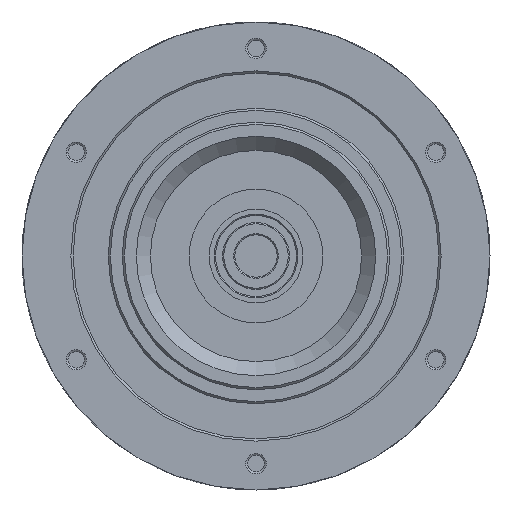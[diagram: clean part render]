
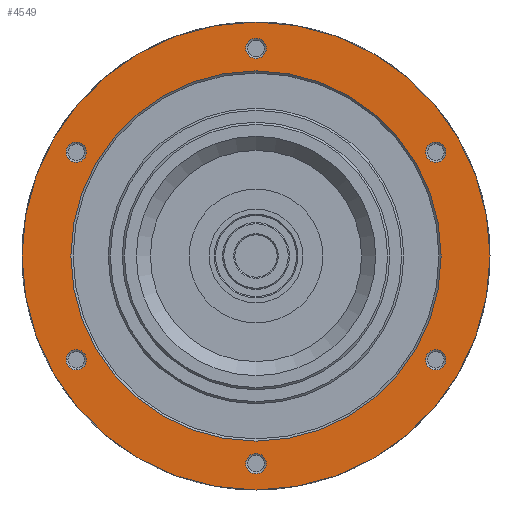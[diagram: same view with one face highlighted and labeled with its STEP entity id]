
A CAD part, left-side view. The second image highlights one B-rep face of the part: STEP entity #4549.
In plain terms, the highlighted planar face has unit normal (-1, 0, 0).
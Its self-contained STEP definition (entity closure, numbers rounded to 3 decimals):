
#4434=CARTESIAN_POINT('',(234.18,314.603,-169.442));
#4435=VERTEX_POINT('',#4434);
#4436=CARTESIAN_POINT('',(234.18,343.399,-186.067));
#4437=VERTEX_POINT('',#4436);
#4438=CARTESIAN_POINT('',(234.18,314.603,-202.692));
#4439=DIRECTION('',(1.,0.,0.));
#4440=DIRECTION('',(0.,0.,1.));
#4441=AXIS2_PLACEMENT_3D('',#4438,#4439,#4440);
#4442=CIRCLE('',#4441,33.25);
#4443=EDGE_CURVE('',#4435,#4437,#4442,.T.);
#4444=ORIENTED_EDGE('',*,*,#4443,.F.);
#4445=EDGE_CURVE('',#4437,#4435,#4442,.T.);
#4446=ORIENTED_EDGE('',*,*,#4445,.F.);
#4447=EDGE_LOOP('',(#4444,#4446));
#4448=FACE_OUTER_BOUND('',#4447,.T.);
#4449=CARTESIAN_POINT('',(234.18,313.156,-232.192));
#4450=VERTEX_POINT('',#4449);
#4451=CARTESIAN_POINT('',(234.18,314.603,-232.192));
#4452=DIRECTION('',(1.,0.,0.));
#4453=DIRECTION('',(0.,1.,0.));
#4454=AXIS2_PLACEMENT_3D('',#4451,#4452,#4453);
#4455=CIRCLE('',#4454,1.447);
#4456=EDGE_CURVE('',#4450,#4450,#4455,.T.);
#4457=ORIENTED_EDGE('',*,*,#4456,.T.);
#4458=EDGE_LOOP('',(#4457));
#4459=FACE_BOUND('',#4458,.T.);
#4460=CARTESIAN_POINT('',(234.18,339.428,-218.695));
#4461=VERTEX_POINT('',#4460);
#4462=CARTESIAN_POINT('',(234.18,340.151,-217.442));
#4463=DIRECTION('',(1.,0.,0.));
#4464=DIRECTION('',(0.,0.5,0.866));
#4465=AXIS2_PLACEMENT_3D('',#4462,#4463,#4464);
#4466=CIRCLE('',#4465,1.447);
#4467=EDGE_CURVE('',#4461,#4461,#4466,.T.);
#4468=ORIENTED_EDGE('',*,*,#4467,.T.);
#4469=EDGE_LOOP('',(#4468));
#4470=FACE_BOUND('',#4469,.T.);
#4471=CARTESIAN_POINT('',(234.18,340.874,-189.195));
#4472=VERTEX_POINT('',#4471);
#4473=CARTESIAN_POINT('',(234.18,339.428,-186.689));
#4474=VERTEX_POINT('',#4473);
#4475=CARTESIAN_POINT('',(234.18,340.151,-187.942));
#4476=DIRECTION('',(1.,0.,0.));
#4477=DIRECTION('',(0.,-0.5,0.866));
#4478=AXIS2_PLACEMENT_3D('',#4475,#4476,#4477);
#4479=CIRCLE('',#4478,1.447);
#4480=EDGE_CURVE('',#4472,#4474,#4479,.T.);
#4481=ORIENTED_EDGE('',*,*,#4480,.T.);
#4482=CARTESIAN_POINT('',(234.18,340.151,-187.942));
#4483=DIRECTION('',(1.,0.,0.));
#4484=DIRECTION('',(0.,-0.5,0.866));
#4485=AXIS2_PLACEMENT_3D('',#4482,#4483,#4484);
#4486=CIRCLE('',#4485,1.447);
#4487=EDGE_CURVE('',#4474,#4472,#4486,.T.);
#4488=ORIENTED_EDGE('',*,*,#4487,.T.);
#4489=EDGE_LOOP('',(#4481,#4488));
#4490=FACE_BOUND('',#4489,.T.);
#4491=CARTESIAN_POINT('',(234.18,316.05,-173.192));
#4492=VERTEX_POINT('',#4491);
#4493=CARTESIAN_POINT('',(234.18,314.603,-173.192));
#4494=DIRECTION('',(1.,0.,0.));
#4495=DIRECTION('',(0.,-1.,0.));
#4496=AXIS2_PLACEMENT_3D('',#4493,#4494,#4495);
#4497=CIRCLE('',#4496,1.447);
#4498=EDGE_CURVE('',#4492,#4492,#4497,.T.);
#4499=ORIENTED_EDGE('',*,*,#4498,.T.);
#4500=EDGE_LOOP('',(#4499));
#4501=FACE_BOUND('',#4500,.T.);
#4502=CARTESIAN_POINT('',(234.18,289.779,-186.689));
#4503=VERTEX_POINT('',#4502);
#4504=CARTESIAN_POINT('',(234.18,289.055,-187.942));
#4505=DIRECTION('',(1.,0.,0.));
#4506=DIRECTION('',(0.,-0.5,-0.866));
#4507=AXIS2_PLACEMENT_3D('',#4504,#4505,#4506);
#4508=CIRCLE('',#4507,1.447);
#4509=EDGE_CURVE('',#4503,#4503,#4508,.T.);
#4510=ORIENTED_EDGE('',*,*,#4509,.T.);
#4511=EDGE_LOOP('',(#4510));
#4512=FACE_BOUND('',#4511,.T.);
#4513=CARTESIAN_POINT('',(234.18,288.332,-216.189));
#4514=VERTEX_POINT('',#4513);
#4515=CARTESIAN_POINT('',(234.18,289.779,-218.695));
#4516=VERTEX_POINT('',#4515);
#4517=CARTESIAN_POINT('',(234.18,289.055,-217.442));
#4518=DIRECTION('',(1.,0.,0.));
#4519=DIRECTION('',(0.,0.5,-0.866));
#4520=AXIS2_PLACEMENT_3D('',#4517,#4518,#4519);
#4521=CIRCLE('',#4520,1.447);
#4522=EDGE_CURVE('',#4514,#4516,#4521,.T.);
#4523=ORIENTED_EDGE('',*,*,#4522,.T.);
#4524=CARTESIAN_POINT('',(234.18,289.055,-217.442));
#4525=DIRECTION('',(1.,0.,0.));
#4526=DIRECTION('',(0.,0.5,-0.866));
#4527=AXIS2_PLACEMENT_3D('',#4524,#4525,#4526);
#4528=CIRCLE('',#4527,1.447);
#4529=EDGE_CURVE('',#4516,#4514,#4528,.T.);
#4530=ORIENTED_EDGE('',*,*,#4529,.T.);
#4531=EDGE_LOOP('',(#4523,#4530));
#4532=FACE_BOUND('',#4531,.T.);
#4533=CARTESIAN_POINT('',(234.18,314.603,-176.392));
#4534=VERTEX_POINT('',#4533);
#4535=CARTESIAN_POINT('',(234.18,314.603,-202.692));
#4536=DIRECTION('',(1.,0.,0.));
#4537=DIRECTION('',(0.,0.,1.));
#4538=AXIS2_PLACEMENT_3D('',#4535,#4536,#4537);
#4539=CIRCLE('',#4538,26.3);
#4540=EDGE_CURVE('',#4534,#4534,#4539,.T.);
#4541=ORIENTED_EDGE('',*,*,#4540,.T.);
#4542=EDGE_LOOP('',(#4541));
#4543=FACE_BOUND('',#4542,.T.);
#4544=CARTESIAN_POINT('',(234.18,314.603,-172.917));
#4545=DIRECTION('',(-1.,0.,0.));
#4546=DIRECTION('',(0.,0.,-1.));
#4547=AXIS2_PLACEMENT_3D('',#4544,#4545,#4546);
#4548=PLANE('',#4547);
#4549=ADVANCED_FACE('',(#4448,#4459,#4470,#4490,#4501,#4512,#4532,#4543),#4548,.T.);
